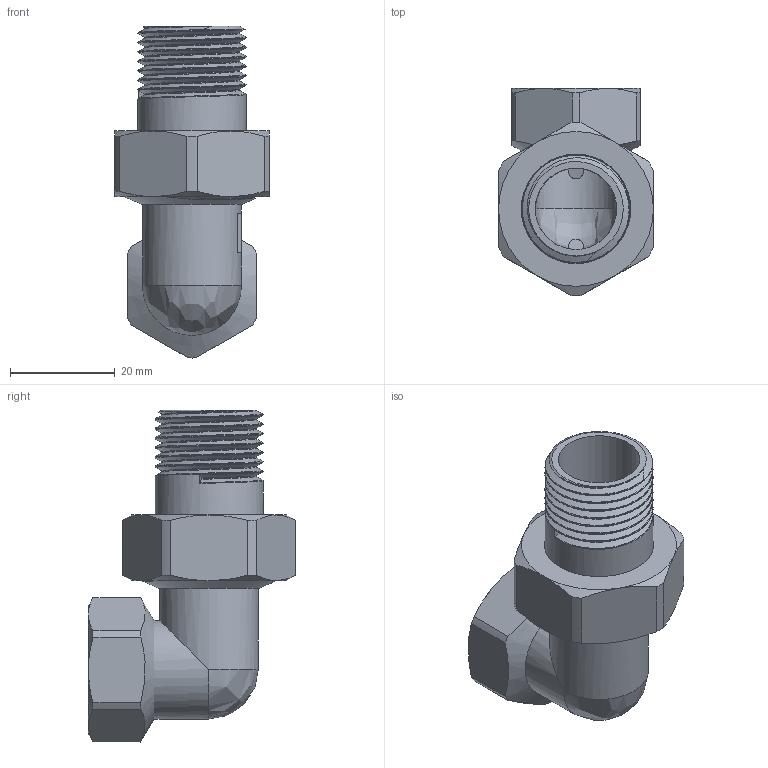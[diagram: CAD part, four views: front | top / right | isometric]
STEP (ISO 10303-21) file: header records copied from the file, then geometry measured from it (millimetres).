
FILE_DESCRIPTION(/* description */ (''),/* implementation_level */ '2;1');
FILE_NAME(/* name */ 'C:\Users\Doom\Desktop\Фадотех\Резьба\SC11 18.03.2020\SC11 18.03.2020.stp',/* time_stamp */ '2022-01-16T18:51:49+02:00',/* author */ ('Doom'),/* organization */ (''),/* preprocessor_version */ 'ST-DEVELOPER v18',/* originating_system */ 'Autodesk Inventor 2020',/* authorisation */ '');
FILE_SCHEMA (('AUTOMOTIVE_DESIGN { 1 0 10303 214 3 1 1 }'));
Length unit declared in the file: millimetre
Products named in the file (4): Сборка2; 2060180D; 2060181D; SC11-1 
Assembly tree (3 placements, depth 2):
  Сборка2
    2060180D
    2060181D
    SC11-1 
Bounding box: 29.5 x 39.5 x 63.25 mm (x, y, z)
Volume: 14919.5 mm3; surface area: 15579.9 mm2
Topology: 3 solids, 3 shells, 164 faces, 452 edges, 297 vertices
Faces by surface type: cylinder 55, plane 48, cone 31, bspline 30
Full cylindrical faces by diameter (mm): 15.5 x4, 18 x1, 18.26 x7, 18.8 x2, 19 x1, 20.6 x7, 20.877 x1, 23.753 x5, 24 x1, 26.41 x4
Entity records: 17403 total; most frequent: CARTESIAN_POINT 13438, ORIENTED_EDGE 896, DIRECTION 687, EDGE_CURVE 448, VERTEX_POINT 297, AXIS2_PLACEMENT_3D 272, EDGE_LOOP 179, FACE_OUTER_BOUND 164
